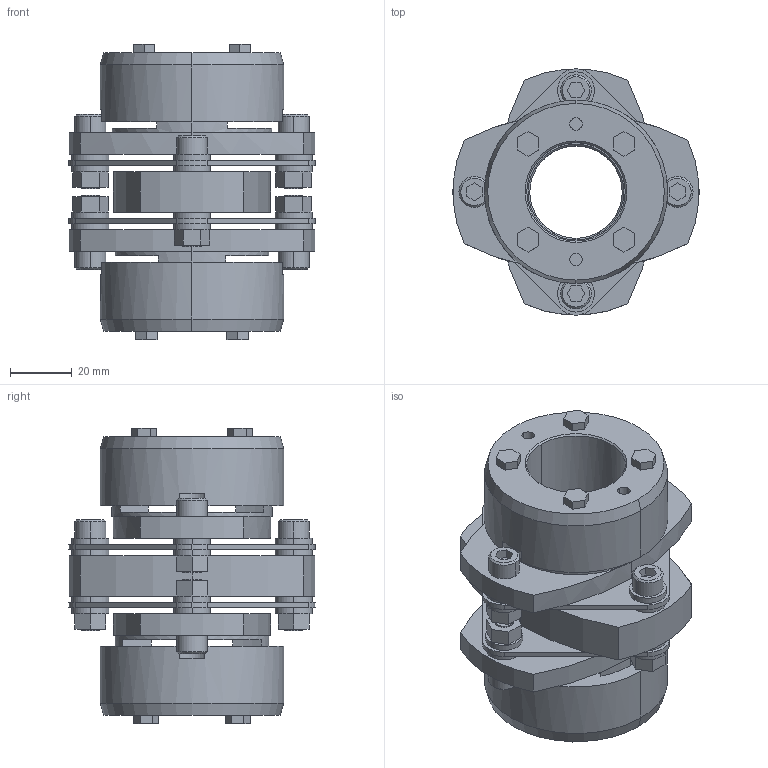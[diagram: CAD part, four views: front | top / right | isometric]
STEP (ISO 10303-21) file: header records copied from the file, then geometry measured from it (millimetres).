
FILE_DESCRIPTION((''),'2;1');
FILE_NAME('LCD-80T7-30×32.stp','2011-09-15T16:03:00',(''),(''),'AutoCAD STEP 2000i','AutoCAD 2000i',', , ');
FILE_SCHEMA(('CONFIG_CONTROL_DESIGN'));
Length unit declared in the file: millimetre
Products named in the file (12): LCD-80T7-30×32; 忣兜1; LC80T7-T032; LC80T7-T030-1; LC80T7-T030; LC80T7-T028; LC80T7-T024; LC80T7-T022; LC80T7-T019; LC80T7-T017-1; LC80T7-T017; LCD80-ITA
Assembly tree (11 placements, depth 2):
  LCD-80T7-30×32
    忣兜1
    LC80T7-T032
    LC80T7-T030-1
    LC80T7-T030
    LC80T7-T028
    LC80T7-T024
    LC80T7-T022
    LC80T7-T019
    LC80T7-T017-1
    LC80T7-T017
    LCD80-ITA
Bounding box: 80 x 79.95 x 96.1 mm (x, y, z)
Volume: 183621.5 mm3; surface area: 58950.2 mm2
Topology: 1 solids, 1 shells, 345 faces, 848 edges, 556 vertices
Faces by surface type: plane 197, cylinder 124, cone 24
Entity records: 10523 total; most frequent: DIRECTION 1866, CARTESIAN_POINT 1761, ORIENTED_EDGE 1696, EDGE_CURVE 848, AXIS2_PLACEMENT_3D 661, VERTEX_POINT 556, VECTOR 544, LINE 544
